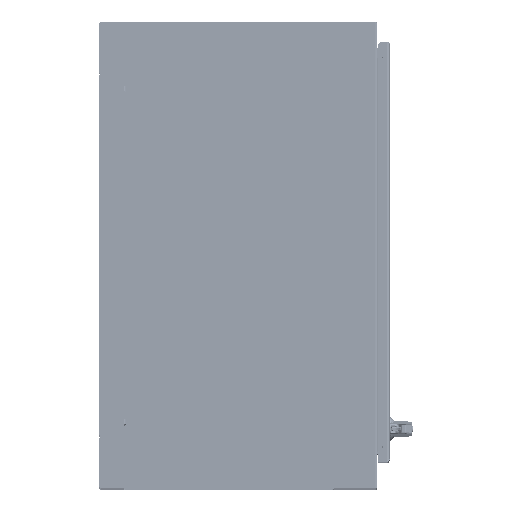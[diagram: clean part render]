
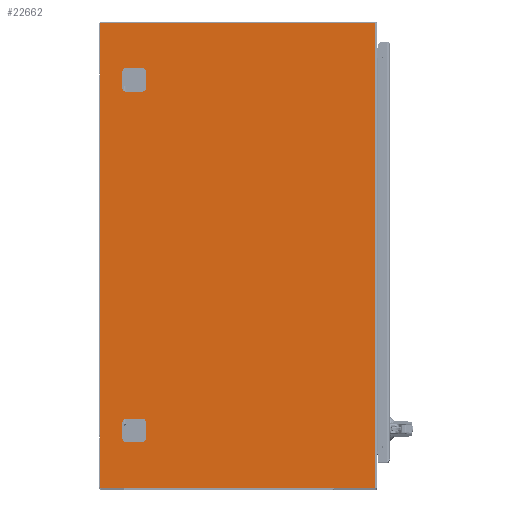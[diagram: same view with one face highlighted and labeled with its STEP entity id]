
A CAD part, top view. The second image highlights one B-rep face of the part: STEP entity #22662.
In plain terms, the highlighted planar face has unit normal (0, 0, 1) as drawn and (0, 1, 0) by its records, which use the part's own axes.
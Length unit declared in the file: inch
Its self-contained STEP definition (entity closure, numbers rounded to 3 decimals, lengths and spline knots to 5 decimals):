
#21425=CARTESIAN_POINT('',(-23.888,0.,-20.013));
#21426=DIRECTION('',(0.,1.,0.));
#21427=DIRECTION('',(0.,0.,-1.));
#21428=AXIS2_PLACEMENT_3D('',#21425,#21426,#21427);
#21433=CARTESIAN_POINT('',(-23.888,0.,20.013));
#21434=DIRECTION('',(0.,1.,0.));
#21435=DIRECTION('',(-1.,0.,0.));
#21436=AXIS2_PLACEMENT_3D('',#21433,#21434,#21435);
#21441=DIRECTION('',(0.,0.,1.));
#21442=VECTOR('',#21441,1.5);
#21443=CARTESIAN_POINT('',(-20.,0.,-15.875));
#21444=LINE('',#21443,#21442);
#21448=CARTESIAN_POINT('',(-20.25,0.,-15.875));
#21449=DIRECTION('',(0.,1.,0.));
#21450=DIRECTION('',(1.,0.,0.));
#21451=AXIS2_PLACEMENT_3D('',#21448,#21449,#21450);
#21456=DIRECTION('',(1.,0.,0.));
#21457=VECTOR('',#21456,1.5);
#21458=CARTESIAN_POINT('',(-21.75,0.,-16.125));
#21459=LINE('',#21458,#21457);
#21463=CARTESIAN_POINT('',(-21.75,0.,-15.875));
#21464=DIRECTION('',(0.,1.,0.));
#21465=DIRECTION('',(0.,0.,-1.));
#21466=AXIS2_PLACEMENT_3D('',#21463,#21464,#21465);
#21471=DIRECTION('',(0.,0.,-1.));
#21472=VECTOR('',#21471,1.5);
#21473=CARTESIAN_POINT('',(-22.,0.,-14.375));
#21474=LINE('',#21473,#21472);
#21478=CARTESIAN_POINT('',(-21.75,0.,-14.375));
#21479=DIRECTION('',(0.,1.,0.));
#21480=DIRECTION('',(-1.,0.,0.));
#21481=AXIS2_PLACEMENT_3D('',#21478,#21479,#21480);
#21486=DIRECTION('',(-1.,0.,0.));
#21487=VECTOR('',#21486,1.5);
#21488=CARTESIAN_POINT('',(-20.25,0.,-14.125));
#21489=LINE('',#21488,#21487);
#21493=CARTESIAN_POINT('',(-20.25,0.,-14.375));
#21494=DIRECTION('',(0.,1.,0.));
#21495=DIRECTION('',(0.,0.,1.));
#21496=AXIS2_PLACEMENT_3D('',#21493,#21494,#21495);
#21501=DIRECTION('',(0.,0.,1.));
#21502=VECTOR('',#21501,1.5);
#21503=CARTESIAN_POINT('',(-20.,0.,14.375));
#21504=LINE('',#21503,#21502);
#21508=CARTESIAN_POINT('',(-20.25,0.,14.375));
#21509=DIRECTION('',(0.,1.,0.));
#21510=DIRECTION('',(1.,0.,0.));
#21511=AXIS2_PLACEMENT_3D('',#21508,#21509,#21510);
#21516=DIRECTION('',(1.,0.,0.));
#21517=VECTOR('',#21516,1.5);
#21518=CARTESIAN_POINT('',(-21.75,0.,14.125));
#21519=LINE('',#21518,#21517);
#21523=CARTESIAN_POINT('',(-21.75,0.,14.375));
#21524=DIRECTION('',(0.,1.,0.));
#21525=DIRECTION('',(0.,0.,-1.));
#21526=AXIS2_PLACEMENT_3D('',#21523,#21524,#21525);
#21531=DIRECTION('',(0.,0.,-1.));
#21532=VECTOR('',#21531,1.5);
#21533=CARTESIAN_POINT('',(-22.,0.,15.875));
#21534=LINE('',#21533,#21532);
#21538=CARTESIAN_POINT('',(-21.75,0.,15.875));
#21539=DIRECTION('',(0.,1.,0.));
#21540=DIRECTION('',(-1.,0.,0.));
#21541=AXIS2_PLACEMENT_3D('',#21538,#21539,#21540);
#21546=DIRECTION('',(-1.,0.,0.));
#21547=VECTOR('',#21546,1.5);
#21548=CARTESIAN_POINT('',(-20.25,0.,16.125));
#21549=LINE('',#21548,#21547);
#21553=CARTESIAN_POINT('',(-20.25,0.,15.875));
#21554=DIRECTION('',(0.,1.,0.));
#21555=DIRECTION('',(0.,0.,1.));
#21556=AXIS2_PLACEMENT_3D('',#21553,#21554,#21555);
#21568=DIRECTION('',(0.,0.,-1.));
#21569=VECTOR('',#21568,40.026);
#21570=CARTESIAN_POINT('',(-23.948,0.,20.013));
#21571=LINE('',#21570,#21569);
#21596=DIRECTION('',(-1.,0.,0.));
#21597=VECTOR('',#21596,23.699);
#21598=CARTESIAN_POINT('',(-0.189,0.,20.073));
#21599=LINE('',#21598,#21597);
#21639=DIRECTION('',(0.,0.,1.));
#21640=VECTOR('',#21639,40.146);
#21641=CARTESIAN_POINT('',(-0.189,0.,-20.073));
#21642=LINE('',#21641,#21640);
#21747=DIRECTION('',(-1.,0.,0.));
#21748=VECTOR('',#21747,23.699);
#21749=CARTESIAN_POINT('',(-0.189,0.,-20.073));
#21750=LINE('',#21749,#21748);
#22447=CARTESIAN_POINT('',(-0.189,0.,20.073));
#22448=VERTEX_POINT('',#22447);
#22449=CARTESIAN_POINT('',(-0.189,0.,-20.073));
#22450=VERTEX_POINT('',#22449);
#22475=CARTESIAN_POINT('',(-23.888,0.,-20.073));
#22476=CARTESIAN_POINT('',(-23.948,0.,-20.013));
#22477=VERTEX_POINT('',#22475);
#22478=VERTEX_POINT('',#22476);
#22483=CARTESIAN_POINT('',(-23.948,0.,20.013));
#22484=CARTESIAN_POINT('',(-23.888,0.,20.073));
#22485=VERTEX_POINT('',#22483);
#22486=VERTEX_POINT('',#22484);
#22491=CARTESIAN_POINT('',(-20.,0.,-15.875));
#22492=CARTESIAN_POINT('',(-20.,0.,-14.375));
#22493=VERTEX_POINT('',#22491);
#22494=VERTEX_POINT('',#22492);
#22495=CARTESIAN_POINT('',(-20.25,0.,-14.125));
#22496=VERTEX_POINT('',#22495);
#22497=CARTESIAN_POINT('',(-21.75,0.,-14.125));
#22498=VERTEX_POINT('',#22497);
#22499=CARTESIAN_POINT('',(-22.,0.,-14.375));
#22500=VERTEX_POINT('',#22499);
#22501=CARTESIAN_POINT('',(-22.,0.,-15.875));
#22502=VERTEX_POINT('',#22501);
#22503=CARTESIAN_POINT('',(-21.75,0.,-16.125));
#22504=VERTEX_POINT('',#22503);
#22505=CARTESIAN_POINT('',(-20.25,0.,-16.125));
#22506=VERTEX_POINT('',#22505);
#22507=CARTESIAN_POINT('',(-20.,0.,14.375));
#22508=CARTESIAN_POINT('',(-20.,0.,15.875));
#22509=VERTEX_POINT('',#22507);
#22510=VERTEX_POINT('',#22508);
#22511=CARTESIAN_POINT('',(-20.25,0.,16.125));
#22512=VERTEX_POINT('',#22511);
#22513=CARTESIAN_POINT('',(-21.75,0.,16.125));
#22514=VERTEX_POINT('',#22513);
#22515=CARTESIAN_POINT('',(-22.,0.,15.875));
#22516=VERTEX_POINT('',#22515);
#22517=CARTESIAN_POINT('',(-22.,0.,14.375));
#22518=VERTEX_POINT('',#22517);
#22519=CARTESIAN_POINT('',(-21.75,0.,14.125));
#22520=VERTEX_POINT('',#22519);
#22521=CARTESIAN_POINT('',(-20.25,0.,14.125));
#22522=VERTEX_POINT('',#22521);
#22607=CARTESIAN_POINT('',(0.,0.,20.073));
#22608=DIRECTION('',(0.,1.,0.));
#22609=DIRECTION('',(-1.,0.,0.));
#22610=AXIS2_PLACEMENT_3D('',#22607,#22608,#22609);
#22611=PLANE('',#22610);
#22613=ORIENTED_EDGE('',*,*,#22612,.F.);
#22615=ORIENTED_EDGE('',*,*,#22614,.F.);
#22617=ORIENTED_EDGE('',*,*,#22616,.T.);
#22619=ORIENTED_EDGE('',*,*,#22618,.T.);
#22621=ORIENTED_EDGE('',*,*,#22620,.F.);
#22623=ORIENTED_EDGE('',*,*,#22622,.T.);
#22624=EDGE_LOOP('',(#22613,#22615,#22617,#22619,#22621,#22623));
#22625=FACE_OUTER_BOUND('',#22624,.F.);
#22627=ORIENTED_EDGE('',*,*,#22626,.F.);
#22629=ORIENTED_EDGE('',*,*,#22628,.T.);
#22631=ORIENTED_EDGE('',*,*,#22630,.F.);
#22633=ORIENTED_EDGE('',*,*,#22632,.T.);
#22635=ORIENTED_EDGE('',*,*,#22634,.F.);
#22637=ORIENTED_EDGE('',*,*,#22636,.T.);
#22639=ORIENTED_EDGE('',*,*,#22638,.F.);
#22641=ORIENTED_EDGE('',*,*,#22640,.T.);
#22642=EDGE_LOOP('',(#22627,#22629,#22631,#22633,#22635,#22637,#22639,#22641));
#22643=FACE_BOUND('',#22642,.F.);
#22645=ORIENTED_EDGE('',*,*,#22644,.F.);
#22647=ORIENTED_EDGE('',*,*,#22646,.T.);
#22649=ORIENTED_EDGE('',*,*,#22648,.F.);
#22651=ORIENTED_EDGE('',*,*,#22650,.T.);
#22653=ORIENTED_EDGE('',*,*,#22652,.F.);
#22655=ORIENTED_EDGE('',*,*,#22654,.T.);
#22657=ORIENTED_EDGE('',*,*,#22656,.F.);
#22659=ORIENTED_EDGE('',*,*,#22658,.T.);
#22660=EDGE_LOOP('',(#22645,#22647,#22649,#22651,#22653,#22655,#22657,#22659));
#22661=FACE_BOUND('',#22660,.F.);
#21429=CIRCLE('',#21428,0.06);
#21437=CIRCLE('',#21436,0.06);
#21452=CIRCLE('',#21451,0.25);
#21467=CIRCLE('',#21466,0.25);
#21482=CIRCLE('',#21481,0.25);
#21497=CIRCLE('',#21496,0.25);
#21512=CIRCLE('',#21511,0.25);
#21527=CIRCLE('',#21526,0.25);
#21542=CIRCLE('',#21541,0.25);
#21557=CIRCLE('',#21556,0.25);
#22612=EDGE_CURVE('',#22477,#22478,#21429,.T.);
#22614=EDGE_CURVE('',#22450,#22477,#21750,.T.);
#22616=EDGE_CURVE('',#22450,#22448,#21642,.T.);
#22618=EDGE_CURVE('',#22448,#22486,#21599,.T.);
#22620=EDGE_CURVE('',#22485,#22486,#21437,.T.);
#22622=EDGE_CURVE('',#22485,#22478,#21571,.T.);
#22626=EDGE_CURVE('',#22493,#22494,#21444,.T.);
#22628=EDGE_CURVE('',#22493,#22506,#21452,.T.);
#22630=EDGE_CURVE('',#22504,#22506,#21459,.T.);
#22632=EDGE_CURVE('',#22504,#22502,#21467,.T.);
#22634=EDGE_CURVE('',#22500,#22502,#21474,.T.);
#22636=EDGE_CURVE('',#22500,#22498,#21482,.T.);
#22638=EDGE_CURVE('',#22496,#22498,#21489,.T.);
#22640=EDGE_CURVE('',#22496,#22494,#21497,.T.);
#22644=EDGE_CURVE('',#22509,#22510,#21504,.T.);
#22646=EDGE_CURVE('',#22509,#22522,#21512,.T.);
#22648=EDGE_CURVE('',#22520,#22522,#21519,.T.);
#22650=EDGE_CURVE('',#22520,#22518,#21527,.T.);
#22652=EDGE_CURVE('',#22516,#22518,#21534,.T.);
#22654=EDGE_CURVE('',#22516,#22514,#21542,.T.);
#22656=EDGE_CURVE('',#22512,#22514,#21549,.T.);
#22658=EDGE_CURVE('',#22512,#22510,#21557,.T.);
#22662=ADVANCED_FACE('',(#22625,#22643,#22661),#22611,.T.);
